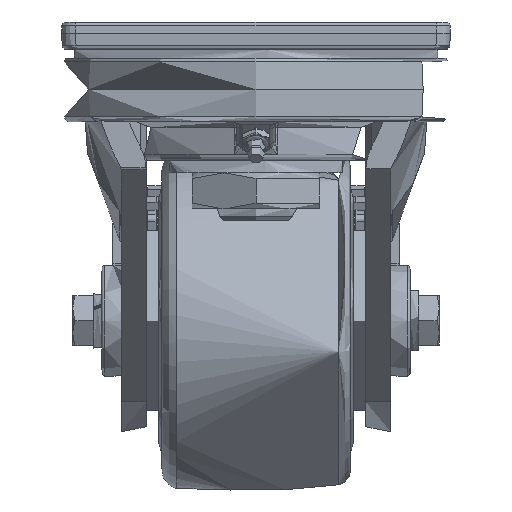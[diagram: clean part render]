
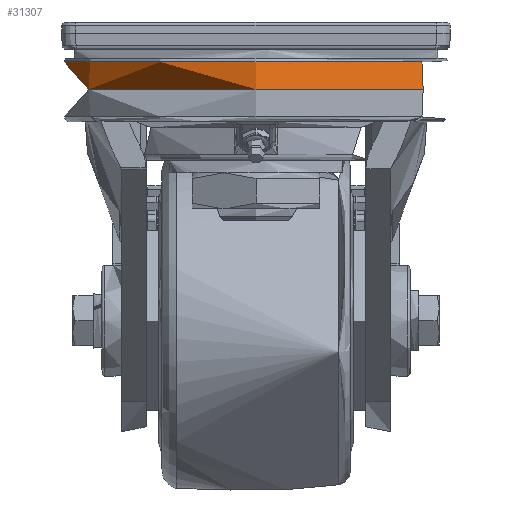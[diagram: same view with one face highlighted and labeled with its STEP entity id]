
A CAD part, left-side view. The second image highlights one B-rep face of the part: STEP entity #31307.
In plain terms, the highlighted conical face has half-angle 3 degrees and reference radius 69.242 mm.
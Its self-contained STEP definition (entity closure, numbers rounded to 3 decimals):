
#87=CONICAL_SURFACE('',#33750,69.242,0.052);
#3451=LINE('',#59554,#5867);
#5867=VECTOR('',#40801,69.242);
#8731=FACE_OUTER_BOUND('',#10621,.T.);
#10621=EDGE_LOOP('',(#28064,#28065,#28066,#28067,#28068,#28069,#28070));
#11784=CIRCLE('',#33746,68.984);
#11785=CIRCLE('',#33747,68.984);
#11786=CIRCLE('',#33748,68.984);
#11788=CIRCLE('',#33751,69.5);
#11789=CIRCLE('',#33752,69.5);
#14698=VERTEX_POINT('',#59542);
#14699=VERTEX_POINT('',#59543);
#14700=VERTEX_POINT('',#59545);
#14701=VERTEX_POINT('',#59550);
#14702=VERTEX_POINT('',#59551);
#19214=EDGE_CURVE('',#14698,#14699,#11784,.T.);
#19215=EDGE_CURVE('',#14700,#14698,#11785,.T.);
#19216=EDGE_CURVE('',#14699,#14700,#11786,.T.);
#19218=EDGE_CURVE('',#14701,#14702,#11788,.T.);
#19219=EDGE_CURVE('',#14702,#14701,#11789,.T.);
#19220=EDGE_CURVE('',#14702,#14700,#3451,.T.);
#28064=ORIENTED_EDGE('',*,*,#19218,.F.);
#28065=ORIENTED_EDGE('',*,*,#19219,.F.);
#28066=ORIENTED_EDGE('',*,*,#19220,.T.);
#28067=ORIENTED_EDGE('',*,*,#19215,.T.);
#28068=ORIENTED_EDGE('',*,*,#19214,.T.);
#28069=ORIENTED_EDGE('',*,*,#19216,.T.);
#28070=ORIENTED_EDGE('',*,*,#19220,.F.);
#31307=ADVANCED_FACE('',(#8731),#87,.T.);
#33746=AXIS2_PLACEMENT_3D('',#59544,#40787,#40788);
#33747=AXIS2_PLACEMENT_3D('',#59546,#40789,#40790);
#33748=AXIS2_PLACEMENT_3D('',#59547,#40791,#40792);
#33750=AXIS2_PLACEMENT_3D('',#59549,#40795,#40796);
#33751=AXIS2_PLACEMENT_3D('',#59552,#40797,#40798);
#33752=AXIS2_PLACEMENT_3D('',#59553,#40799,#40800);
#40787=DIRECTION('center_axis',(0.,0.,
-1.));
#40788=DIRECTION('ref_axis',(-1.,0.,0.));
#40789=DIRECTION('center_axis',(0.,0.,
-1.));
#40790=DIRECTION('ref_axis',(-1.,0.,0.));
#40791=DIRECTION('center_axis',(0.,0.,
-1.));
#40792=DIRECTION('ref_axis',(-1.,0.,0.));
#40795=DIRECTION('center_axis',(0.,0.,
-1.));
#40796=DIRECTION('ref_axis',(-1.,0.,0.));
#40797=DIRECTION('center_axis',(0.,0.,
-1.));
#40798=DIRECTION('ref_axis',(-1.,0.,0.));
#40799=DIRECTION('center_axis',(0.,0.,
-1.));
#40800=DIRECTION('ref_axis',(-1.,0.,0.));
#40801=DIRECTION('',(-0.052,0.,0.999));
#59542=CARTESIAN_POINT('',(-68.984,0.,-1.395));
#59543=CARTESIAN_POINT('',(0.,68.984,-1.395));
#59544=CARTESIAN_POINT('Origin',(0.,0.,
-1.395));
#59545=CARTESIAN_POINT('',(68.984,0.,-1.395));
#59546=CARTESIAN_POINT('Origin',(0.,0.,
-1.395));
#59547=CARTESIAN_POINT('Origin',(0.,0.,
-1.395));
#59549=CARTESIAN_POINT('Origin',(0.,0.,
-6.323));
#59550=CARTESIAN_POINT('',(-69.5,0.,-11.25));
#59551=CARTESIAN_POINT('',(69.5,0.,-11.25));
#59552=CARTESIAN_POINT('Origin',(0.,0.,
-11.25));
#59553=CARTESIAN_POINT('Origin',(0.,0.,
-11.25));
#59554=CARTESIAN_POINT('',(69.242,0.,-6.323));
